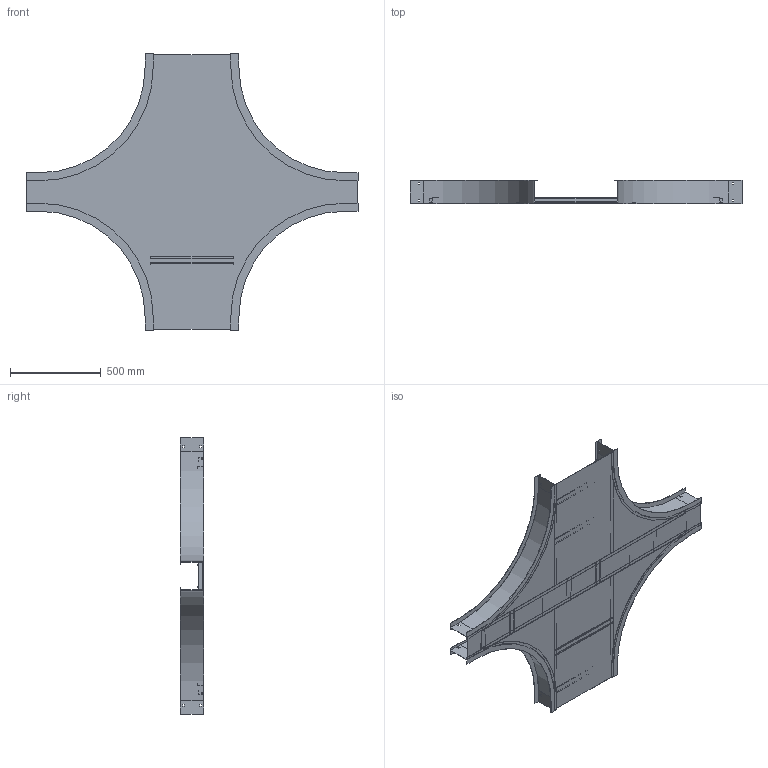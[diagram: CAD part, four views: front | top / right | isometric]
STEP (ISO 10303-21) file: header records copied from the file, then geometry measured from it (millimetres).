
FILE_DESCRIPTION((''),'2;1');
FILE_NAME('AHF50618SEX24_ASM','2010-02-01T',('erouzier'),(''),'PRO/ENGINEER BY PARAMETRIC TECHNOLOGY CORPORATION, 2008510','PRO/ENGINEER BY PARAMETRIC TECHNOLOGY CORPORATION, 2008510','');
FILE_SCHEMA(('CONFIG_CONTROL_DESIGN'));
Length unit declared in the file: inch
Products named in the file (18): CDS001811-5-90-24-I; CDS002159L6_AF8; CDS002159L6_AF9; CDS002159L6_AF10; CDS002159L6_AF11; CDS002159L6_AF12; CDS002159L6_AF13; CDS002159L6_AF14; CDS002159L6_AF15; CDS000495_GEN_AF18; CDS000495_GEN_AF19; CDS000495_GEN_AF22; CDS000495_GEN_AF23; CDS000495_GEN_AF20; CDS000495_GEN_AF21; CDS002159L18; CDS014308-6-24-18; AHF50618SEX24_ASM
Assembly tree (23 placements, depth 2):
  AHF50618SEX24_ASM
    CDS001811-5-90-24-I  x4
    CDS002159L6_AF8
    CDS002159L6_AF9
    CDS002159L6_AF10
    CDS002159L6_AF11
    CDS002159L6_AF12
    CDS002159L6_AF13
    CDS002159L6_AF14
    CDS002159L6_AF15
    CDS000495_GEN_AF18
    CDS000495_GEN_AF19
    CDS000495_GEN_AF22
    CDS000495_GEN_AF23
    CDS000495_GEN_AF20
    CDS000495_GEN_AF21
    CDS002159L18  x4
    CDS014308-6-24-18
Bounding box: 1832.86 x 129.03 x 1528.06 mm (x, y, z)
Volume: 4509169.7 mm3; surface area: 5803598 mm2
Topology: 23 solids, 23 shells, 606 faces, 1680 edges, 1120 vertices
Faces by surface type: plane 446, cylinder 160
Entity records: 12805 total; most frequent: CARTESIAN_POINT 2211, DIRECTION 2148, ORIENTED_EDGE 2136, EDGE_CURVE 1068, VECTOR 850, LINE 850, VERTEX_POINT 712, AXIS2_PLACEMENT_3D 649
